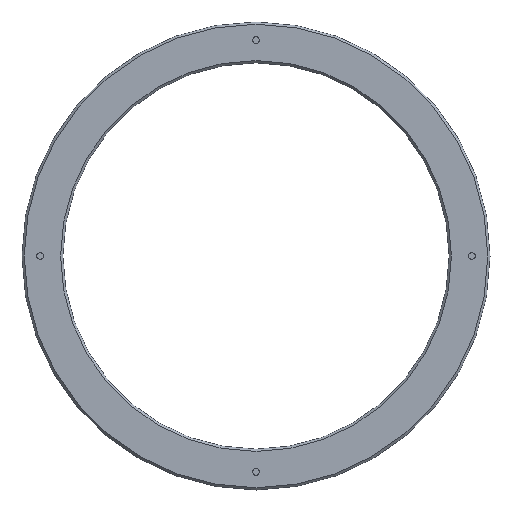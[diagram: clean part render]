
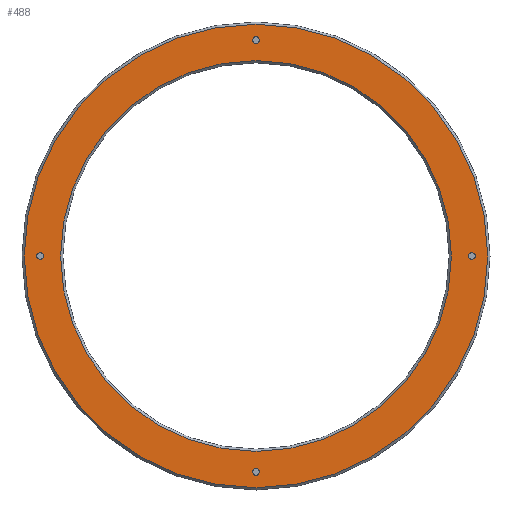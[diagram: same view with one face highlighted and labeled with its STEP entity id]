
A CAD part, front view. The second image highlights one B-rep face of the part: STEP entity #488.
In plain terms, the highlighted planar face has unit normal (0, -1, 0).
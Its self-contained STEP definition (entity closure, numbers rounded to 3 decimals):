
#62=CARTESIAN_POINT('',(0.,0.,-95.));
#63=DIRECTION('',(0.,-1.,0.));
#64=DIRECTION('',(0.,0.,-1.));
#65=AXIS2_PLACEMENT_3D('',#62,#63,#64);
#67=CARTESIAN_POINT('',(0.,0.,-95.));
#68=DIRECTION('',(0.,-1.,0.));
#69=DIRECTION('',(0.,0.,1.));
#70=AXIS2_PLACEMENT_3D('',#67,#68,#69);
#72=CARTESIAN_POINT('',(95.,0.,0.));
#73=DIRECTION('',(0.,-1.,0.));
#74=DIRECTION('',(0.,0.,-1.));
#75=AXIS2_PLACEMENT_3D('',#72,#73,#74);
#77=CARTESIAN_POINT('',(95.,0.,0.));
#78=DIRECTION('',(0.,-1.,0.));
#79=DIRECTION('',(0.,0.,1.));
#80=AXIS2_PLACEMENT_3D('',#77,#78,#79);
#82=CARTESIAN_POINT('',(0.,0.,95.));
#83=DIRECTION('',(0.,-1.,0.));
#84=DIRECTION('',(0.,0.,-1.));
#85=AXIS2_PLACEMENT_3D('',#82,#83,#84);
#87=CARTESIAN_POINT('',(0.,0.,95.));
#88=DIRECTION('',(0.,-1.,0.));
#89=DIRECTION('',(0.,0.,1.));
#90=AXIS2_PLACEMENT_3D('',#87,#88,#89);
#92=CARTESIAN_POINT('',(-95.,0.,0.));
#93=DIRECTION('',(0.,-1.,0.));
#94=DIRECTION('',(0.,0.,-1.));
#95=AXIS2_PLACEMENT_3D('',#92,#93,#94);
#97=CARTESIAN_POINT('',(-95.,0.,0.));
#98=DIRECTION('',(0.,-1.,0.));
#99=DIRECTION('',(0.,0.,1.));
#100=AXIS2_PLACEMENT_3D('',#97,#98,#99);
#102=CARTESIAN_POINT('',(0.,0.,
0.));
#103=DIRECTION('',(0.,1.,0.));
#104=DIRECTION('',(-1.,0.,0.));
#105=AXIS2_PLACEMENT_3D('',#102,#103,#104);
#107=CARTESIAN_POINT('',(0.,0.,
0.));
#108=DIRECTION('',(0.,1.,0.));
#109=DIRECTION('',(1.,0.,0.));
#110=AXIS2_PLACEMENT_3D('',#107,#108,#109);
#112=CARTESIAN_POINT('',(0.,0.,
0.));
#113=DIRECTION('',(0.,1.,0.));
#114=DIRECTION('',(1.,0.,0.));
#115=AXIS2_PLACEMENT_3D('',#112,#113,#114);
#117=CARTESIAN_POINT('',(0.,0.,
0.));
#118=DIRECTION('',(0.,1.,0.));
#119=DIRECTION('',(-1.,0.,0.));
#120=AXIS2_PLACEMENT_3D('',#117,#118,#119);
#308=CARTESIAN_POINT('',(0.,0.,-96.5));
#309=CARTESIAN_POINT('',(0.,0.,-93.5));
#310=VERTEX_POINT('',#308);
#311=VERTEX_POINT('',#309);
#312=CARTESIAN_POINT('',(95.,0.,-1.5));
#313=CARTESIAN_POINT('',(95.,0.,1.5));
#314=VERTEX_POINT('',#312);
#315=VERTEX_POINT('',#313);
#316=CARTESIAN_POINT('',(0.,0.,93.5));
#317=CARTESIAN_POINT('',(0.,0.,96.5));
#318=VERTEX_POINT('',#316);
#319=VERTEX_POINT('',#317);
#320=CARTESIAN_POINT('',(-95.,0.,-1.5));
#321=CARTESIAN_POINT('',(-95.,0.,1.5));
#322=VERTEX_POINT('',#320);
#323=VERTEX_POINT('',#321);
#336=CARTESIAN_POINT('',(-102.,0.,
0.));
#337=CARTESIAN_POINT('',(102.,0.,
0.));
#338=VERTEX_POINT('',#336);
#339=VERTEX_POINT('',#337);
#340=CARTESIAN_POINT('',(86.,0.,0.));
#341=CARTESIAN_POINT('',(-86.,0.,0.));
#342=VERTEX_POINT('',#340);
#343=VERTEX_POINT('',#341);
#448=CARTESIAN_POINT('',(0.,0.,0.));
#449=DIRECTION('',(0.,1.,0.));
#450=DIRECTION('',(1.,0.,0.));
#451=AXIS2_PLACEMENT_3D('',#448,#449,#450);
#452=PLANE('',#451);
#454=ORIENTED_EDGE('',*,*,#453,.T.);
#456=ORIENTED_EDGE('',*,*,#455,.T.);
#457=EDGE_LOOP('',(#454,#456));
#458=FACE_OUTER_BOUND('',#457,.F.);
#460=ORIENTED_EDGE('',*,*,#459,.T.);
#462=ORIENTED_EDGE('',*,*,#461,.T.);
#463=EDGE_LOOP('',(#460,#462));
#464=FACE_BOUND('',#463,.F.);
#466=ORIENTED_EDGE('',*,*,#465,.T.);
#468=ORIENTED_EDGE('',*,*,#467,.T.);
#469=EDGE_LOOP('',(#466,#468));
#470=FACE_BOUND('',#469,.F.);
#472=ORIENTED_EDGE('',*,*,#471,.T.);
#474=ORIENTED_EDGE('',*,*,#473,.T.);
#475=EDGE_LOOP('',(#472,#474));
#476=FACE_BOUND('',#475,.F.);
#478=ORIENTED_EDGE('',*,*,#477,.T.);
#480=ORIENTED_EDGE('',*,*,#479,.T.);
#481=EDGE_LOOP('',(#478,#480));
#482=FACE_BOUND('',#481,.F.);
#484=ORIENTED_EDGE('',*,*,#483,.F.);
#485=ORIENTED_EDGE('',*,*,#438,.F.);
#486=EDGE_LOOP('',(#484,#485));
#487=FACE_BOUND('',#486,.F.);
#66=CIRCLE('',#65,1.5);
#71=CIRCLE('',#70,1.5);
#76=CIRCLE('',#75,1.5);
#81=CIRCLE('',#80,1.5);
#86=CIRCLE('',#85,1.5);
#91=CIRCLE('',#90,1.5);
#96=CIRCLE('',#95,1.5);
#101=CIRCLE('',#100,1.5);
#106=CIRCLE('',#105,102.);
#111=CIRCLE('',#110,102.);
#116=CIRCLE('',#115,86.);
#121=CIRCLE('',#120,86.);
#438=EDGE_CURVE('',#343,#342,#121,.T.);
#453=EDGE_CURVE('',#338,#339,#106,.T.);
#455=EDGE_CURVE('',#339,#338,#111,.T.);
#459=EDGE_CURVE('',#310,#311,#66,.T.);
#461=EDGE_CURVE('',#311,#310,#71,.T.);
#465=EDGE_CURVE('',#314,#315,#76,.T.);
#467=EDGE_CURVE('',#315,#314,#81,.T.);
#471=EDGE_CURVE('',#318,#319,#86,.T.);
#473=EDGE_CURVE('',#319,#318,#91,.T.);
#477=EDGE_CURVE('',#322,#323,#96,.T.);
#479=EDGE_CURVE('',#323,#322,#101,.T.);
#483=EDGE_CURVE('',#342,#343,#116,.T.);
#488=ADVANCED_FACE('',(#458,#464,#470,#476,#482,#487),#452,.F.);
